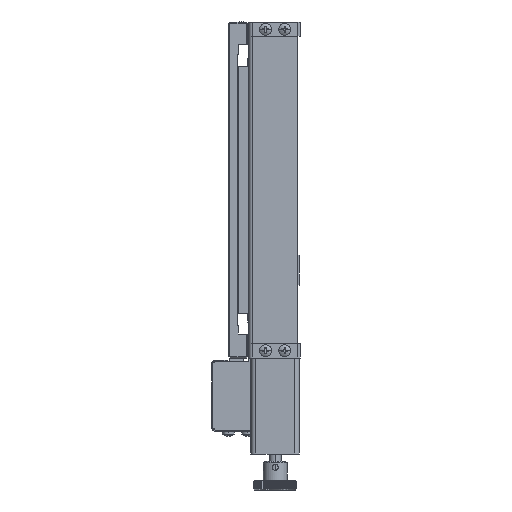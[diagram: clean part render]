
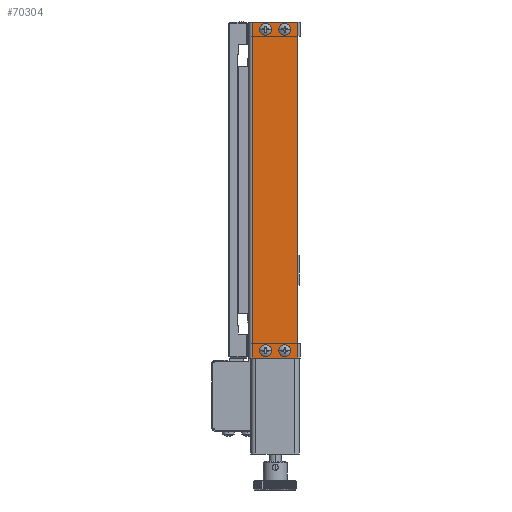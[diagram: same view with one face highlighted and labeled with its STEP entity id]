
A CAD part, left-side view. The second image highlights one B-rep face of the part: STEP entity #70304.
In plain terms, the highlighted planar face has unit normal (-1, 0, 0).
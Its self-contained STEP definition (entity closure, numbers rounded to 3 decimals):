
#1048 = CARTESIAN_POINT ( 'NONE',  ( -110.5, 5., -68.45 ) ) ;
#1399 = EDGE_CURVE ( 'NONE', #13317, #58988, #44278, .T. ) ;
#1404 = FACE_BOUND ( 'NONE', #27004, .T. ) ;
#4794 = PLANE ( 'NONE',  #11885 ) ;
#4819 = ORIENTED_EDGE ( 'NONE', *, *, #96556, .F. ) ;
#6431 = DIRECTION ( 'NONE',  ( -1., 0., 0. ) ) ;
#7682 = VERTEX_POINT ( 'NONE', #106313 ) ;
#8662 = CARTESIAN_POINT ( 'NONE',  ( -110.5, 5., -67. ) ) ;
#11040 = VERTEX_POINT ( 'NONE', #1048 ) ;
#11202 = CARTESIAN_POINT ( 'NONE',  ( -110.5, -8.5, -70. ) ) ;
#11241 = ORIENTED_EDGE ( 'NONE', *, *, #98623, .F. ) ;
#11313 = ORIENTED_EDGE ( 'NONE', *, *, #27858, .T. ) ;
#11885 = AXIS2_PLACEMENT_3D ( 'NONE', #79522, #71560, #80929 ) ;
#11959 = DIRECTION ( 'NONE',  ( -1., 0., 0. ) ) ;
#12238 = CIRCLE ( 'NONE', #94824, 1.45 ) ;
#12871 = EDGE_CURVE ( 'NONE', #63295, #39307, #49595, .T. ) ;
#13317 = VERTEX_POINT ( 'NONE', #57214 ) ;
#14947 = CIRCLE ( 'NONE', #23761, 1.45 ) ;
#15962 = DIRECTION ( 'NONE',  ( 0., 0., 1. ) ) ;
#16320 = DIRECTION ( 'NONE',  ( 0., -1., 0. ) ) ;
#16717 = CARTESIAN_POINT ( 'NONE',  ( -110.5, 5., 67. ) ) ;
#16976 = DIRECTION ( 'NONE',  ( -1., 0., 0. ) ) ;
#17290 = AXIS2_PLACEMENT_3D ( 'NONE', #106725, #99820, #23959 ) ;
#19349 = EDGE_LOOP ( 'NONE', ( #69577, #57817 ) ) ;
#20822 = FACE_BOUND ( 'NONE', #19349, .T. ) ;
#23419 = FACE_BOUND ( 'NONE', #68989, .T. ) ;
#23761 = AXIS2_PLACEMENT_3D ( 'NONE', #8662, #16976, #83010 ) ;
#23959 = DIRECTION ( 'NONE',  ( 0., 0., 1. ) ) ;
#24326 = DIRECTION ( 'NONE',  ( -1., 0., 0. ) ) ;
#24927 = DIRECTION ( 'NONE',  ( 0., -1., 0. ) ) ;
#25039 = DIRECTION ( 'NONE',  ( 0., 0., 1. ) ) ;
#26563 = DIRECTION ( 'NONE',  ( 0., 0., 1. ) ) ;
#27004 = EDGE_LOOP ( 'NONE', ( #55140, #75113 ) ) ;
#27220 = EDGE_LOOP ( 'NONE', ( #4819, #62372 ) ) ;
#27291 = VERTEX_POINT ( 'NONE', #67691 ) ;
#27604 = VERTEX_POINT ( 'NONE', #63239 ) ;
#27858 = EDGE_CURVE ( 'NONE', #39307, #102336, #30442, .T. ) ;
#30442 = LINE ( 'NONE', #77289, #99294 ) ;
#30864 = CIRCLE ( 'NONE', #49127, 1.45 ) ;
#34854 = LINE ( 'NONE', #81206, #72565 ) ;
#35145 = EDGE_CURVE ( 'NONE', #27291, #107423, #30864, .T. ) ;
#35892 = VECTOR ( 'NONE', #56216, 1000. ) ;
#36582 = CARTESIAN_POINT ( 'NONE',  ( -110.5, -3., 67. ) ) ;
#36763 = DIRECTION ( 'NONE',  ( 0., 0., 1. ) ) ;
#39089 = AXIS2_PLACEMENT_3D ( 'NONE', #16717, #74777, #25039 ) ;
#39191 = CARTESIAN_POINT ( 'NONE',  ( -110.5, 11.5, -70. ) ) ;
#39307 = VERTEX_POINT ( 'NONE', #11202 ) ;
#41550 = CIRCLE ( 'NONE', #17290, 1.45 ) ;
#42483 = AXIS2_PLACEMENT_3D ( 'NONE', #90907, #6431, #97827 ) ;
#44278 = CIRCLE ( 'NONE', #82983, 1.45 ) ;
#46969 = VECTOR ( 'NONE', #16320, 1000. ) ;
#47696 = EDGE_CURVE ( 'NONE', #107423, #27291, #107369, .T. ) ;
#49031 = EDGE_CURVE ( 'NONE', #27604, #86464, #83722, .T. ) ;
#49093 = CARTESIAN_POINT ( 'NONE',  ( -110.5, -3., 68.45 ) ) ;
#49127 = AXIS2_PLACEMENT_3D ( 'NONE', #69839, #77438, #36763 ) ;
#49595 = LINE ( 'NONE', #39191, #46969 ) ;
#53293 = CARTESIAN_POINT ( 'NONE',  ( -110.5, -3., -68.45 ) ) ;
#54942 = ORIENTED_EDGE ( 'NONE', *, *, #12871, .T. ) ;
#55140 = ORIENTED_EDGE ( 'NONE', *, *, #47696, .F. ) ;
#56216 = DIRECTION ( 'NONE',  ( 0., 0., 1. ) ) ;
#57214 = CARTESIAN_POINT ( 'NONE',  ( -110.5, -3., -65.55 ) ) ;
#57658 = ORIENTED_EDGE ( 'NONE', *, *, #1399, .F. ) ;
#57817 = ORIENTED_EDGE ( 'NONE', *, *, #49031, .F. ) ;
#58613 = CARTESIAN_POINT ( 'NONE',  ( -110.5, 5., -65.55 ) ) ;
#58988 = VERTEX_POINT ( 'NONE', #53293 ) ;
#59266 = DIRECTION ( 'NONE',  ( -1., 0., 0. ) ) ;
#59669 = FACE_BOUND ( 'NONE', #27220, .T. ) ;
#60373 = EDGE_CURVE ( 'NONE', #63295, #7682, #91707, .T. ) ;
#62372 = ORIENTED_EDGE ( 'NONE', *, *, #81065, .F. ) ;
#63239 = CARTESIAN_POINT ( 'NONE',  ( -110.5, -3., 65.55 ) ) ;
#63295 = VERTEX_POINT ( 'NONE', #80628 ) ;
#67691 = CARTESIAN_POINT ( 'NONE',  ( -110.5, 5., 65.55 ) ) ;
#68989 = EDGE_LOOP ( 'NONE', ( #57658, #103314 ) ) ;
#69577 = ORIENTED_EDGE ( 'NONE', *, *, #83042, .F. ) ;
#69839 = CARTESIAN_POINT ( 'NONE',  ( -110.5, 5., 67. ) ) ;
#70304 = ADVANCED_FACE ( 'NONE', ( #59669, #23419, #1404, #20822, #106535 ), #4794, .T. ) ;
#71560 = DIRECTION ( 'NONE',  ( -1., 0., 0. ) ) ;
#72565 = VECTOR ( 'NONE', #24927, 1000. ) ;
#72638 = CARTESIAN_POINT ( 'NONE',  ( -110.5, 10.5, -70. ) ) ;
#74777 = DIRECTION ( 'NONE',  ( -1., 0., 0. ) ) ;
#75113 = ORIENTED_EDGE ( 'NONE', *, *, #35145, .F. ) ;
#76315 = CARTESIAN_POINT ( 'NONE',  ( -110.5, -3., 67. ) ) ;
#77289 = CARTESIAN_POINT ( 'NONE',  ( -110.5, -8.5, -70. ) ) ;
#77438 = DIRECTION ( 'NONE',  ( -1., 0., 0. ) ) ;
#77663 = DIRECTION ( 'NONE',  ( 0., 0., 1. ) ) ;
#79522 = CARTESIAN_POINT ( 'NONE',  ( -110.5, 11.5, -70. ) ) ;
#80628 = CARTESIAN_POINT ( 'NONE',  ( -110.5, 10.5, -70. ) ) ;
#80929 = DIRECTION ( 'NONE',  ( 0., 1., 0. ) ) ;
#81065 = EDGE_CURVE ( 'NONE', #11040, #88730, #14947, .T. ) ;
#81206 = CARTESIAN_POINT ( 'NONE',  ( -110.5, 11.5, 70. ) ) ;
#82983 = AXIS2_PLACEMENT_3D ( 'NONE', #99811, #24326, #15962 ) ;
#83010 = DIRECTION ( 'NONE',  ( 0., 0., 1. ) ) ;
#83042 = EDGE_CURVE ( 'NONE', #86464, #27604, #12238, .T. ) ;
#83722 = CIRCLE ( 'NONE', #105284, 1.45 ) ;
#86464 = VERTEX_POINT ( 'NONE', #49093 ) ;
#88730 = VERTEX_POINT ( 'NONE', #58613 ) ;
#90907 = CARTESIAN_POINT ( 'NONE',  ( -110.5, -3., -67. ) ) ;
#91707 = LINE ( 'NONE', #72638, #35892 ) ;
#94004 = ORIENTED_EDGE ( 'NONE', *, *, #60373, .F. ) ;
#94824 = AXIS2_PLACEMENT_3D ( 'NONE', #76315, #59266, #26563 ) ;
#95989 = CARTESIAN_POINT ( 'NONE',  ( -110.5, -8.5, 70. ) ) ;
#96556 = EDGE_CURVE ( 'NONE', #88730, #11040, #41550, .T. ) ;
#97827 = DIRECTION ( 'NONE',  ( 0., 0., 1. ) ) ;
#98623 = EDGE_CURVE ( 'NONE', #7682, #102336, #34854, .T. ) ;
#99294 = VECTOR ( 'NONE', #77663, 1000. ) ;
#99811 = CARTESIAN_POINT ( 'NONE',  ( -110.5, -3., -67. ) ) ;
#99820 = DIRECTION ( 'NONE',  ( -1., 0., 0. ) ) ;
#100817 = EDGE_LOOP ( 'NONE', ( #11241, #94004, #54942, #11313 ) ) ;
#102336 = VERTEX_POINT ( 'NONE', #95989 ) ;
#103245 = CIRCLE ( 'NONE', #42483, 1.45 ) ;
#103314 = ORIENTED_EDGE ( 'NONE', *, *, #106649, .F. ) ;
#104123 = DIRECTION ( 'NONE',  ( 0., 0., 1. ) ) ;
#104393 = CARTESIAN_POINT ( 'NONE',  ( -110.5, 5., 68.45 ) ) ;
#105284 = AXIS2_PLACEMENT_3D ( 'NONE', #36582, #11959, #104123 ) ;
#106313 = CARTESIAN_POINT ( 'NONE',  ( -110.5, 10.5, 70. ) ) ;
#106535 = FACE_OUTER_BOUND ( 'NONE', #100817, .T. ) ;
#106649 = EDGE_CURVE ( 'NONE', #58988, #13317, #103245, .T. ) ;
#106725 = CARTESIAN_POINT ( 'NONE',  ( -110.5, 5., -67. ) ) ;
#107369 = CIRCLE ( 'NONE', #39089, 1.45 ) ;
#107423 = VERTEX_POINT ( 'NONE', #104393 ) ;
